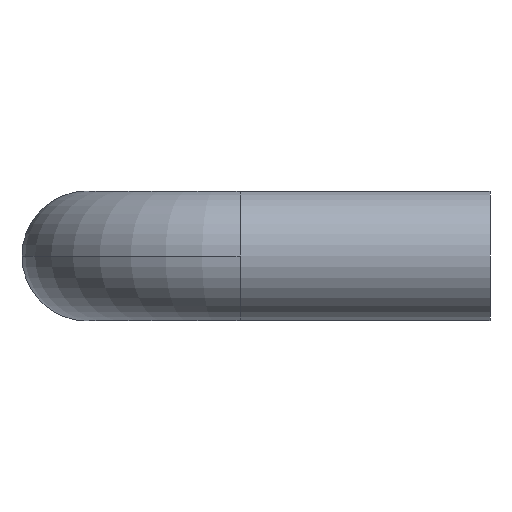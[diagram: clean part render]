
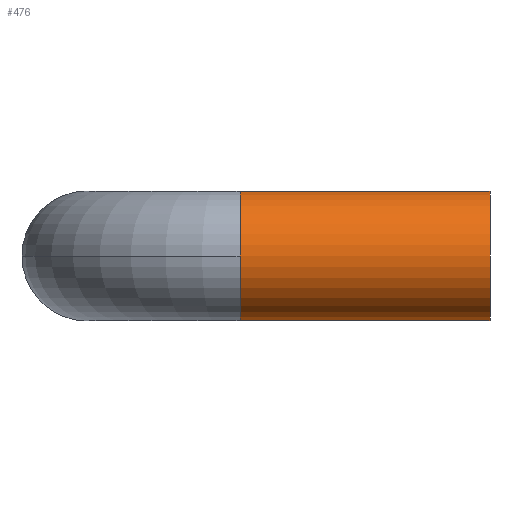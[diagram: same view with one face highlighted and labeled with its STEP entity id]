
A CAD part, front view. The second image highlights one B-rep face of the part: STEP entity #476.
In plain terms, the highlighted cylindrical face has radius 24.15 mm (diameter 48.3 mm), a partial arc.
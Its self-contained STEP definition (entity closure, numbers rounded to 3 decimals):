
#5 = CIRCLE ( 'NONE', #71, 24.15 ) ;
#6 = AXIS2_PLACEMENT_3D ( 'NONE', #216, #486, #369 ) ;
#9 = VERTEX_POINT ( 'NONE', #485 ) ;
#13 = CYLINDRICAL_SURFACE ( 'NONE', #213, 24.15 ) ;
#15 = ORIENTED_EDGE ( 'NONE', *, *, #426, .T. ) ;
#17 = DIRECTION ( 'NONE',  ( 1., 0., 0. ) ) ;
#21 = CARTESIAN_POINT ( 'NONE',  ( 65., 20555., 6300. ) ) ;
#35 = LINE ( 'NONE', #335, #329 ) ;
#65 = VERTEX_POINT ( 'NONE', #21 ) ;
#71 = AXIS2_PLACEMENT_3D ( 'NONE', #156, #345, #378 ) ;
#93 = FACE_OUTER_BOUND ( 'NONE', #166, .T. ) ;
#112 = CIRCLE ( 'NONE', #6, 24.15 ) ;
#121 = CARTESIAN_POINT ( 'NONE',  ( -28., 20555., 6300. ) ) ;
#128 = DIRECTION ( 'NONE',  ( 0., 0., -1. ) ) ;
#131 = DIRECTION ( 'NONE',  ( 1., 0., 0. ) ) ;
#133 = CARTESIAN_POINT ( 'NONE',  ( -28., 20555., 6275.85 ) ) ;
#156 = CARTESIAN_POINT ( 'NONE',  ( 65., 20555., 6275.85 ) ) ;
#166 = EDGE_LOOP ( 'NONE', ( #389, #15, #425, #222, #223 ) ) ;
#171 = EDGE_CURVE ( 'NONE', #65, #366, #5, .T. ) ;
#192 = EDGE_CURVE ( 'NONE', #399, #65, #35, .T. ) ;
#208 = CARTESIAN_POINT ( 'NONE',  ( -28., 20530.85, 6275.85 ) ) ;
#213 = AXIS2_PLACEMENT_3D ( 'NONE', #394, #17, #128 ) ;
#216 = CARTESIAN_POINT ( 'NONE',  ( -28., 20555., 6275.85 ) ) ;
#222 = ORIENTED_EDGE ( 'NONE', *, *, #461, .T. ) ;
#223 = ORIENTED_EDGE ( 'NONE', *, *, #171, .F. ) ;
#237 = AXIS2_PLACEMENT_3D ( 'NONE', #133, #131, #279 ) ;
#266 = CARTESIAN_POINT ( 'NONE',  ( 65., 20555., 6251.7 ) ) ;
#279 = DIRECTION ( 'NONE',  ( 0., 0., -1. ) ) ;
#280 = EDGE_CURVE ( 'NONE', #478, #9, #112, .T. ) ;
#329 = VECTOR ( 'NONE', #492, 1000. ) ;
#335 = CARTESIAN_POINT ( 'NONE',  ( -28., 20555., 6300. ) ) ;
#340 = VECTOR ( 'NONE', #468, 1000. ) ;
#345 = DIRECTION ( 'NONE',  ( 1., 0., 0. ) ) ;
#366 = VERTEX_POINT ( 'NONE', #266 ) ;
#369 = DIRECTION ( 'NONE',  ( 0., 0., -1. ) ) ;
#378 = DIRECTION ( 'NONE',  ( 0., 0., -1. ) ) ;
#382 = CIRCLE ( 'NONE', #237, 24.15 ) ;
#389 = ORIENTED_EDGE ( 'NONE', *, *, #192, .F. ) ;
#394 = CARTESIAN_POINT ( 'NONE',  ( -28., 20555., 6275.85 ) ) ;
#399 = VERTEX_POINT ( 'NONE', #121 ) ;
#425 = ORIENTED_EDGE ( 'NONE', *, *, #280, .T. ) ;
#426 = EDGE_CURVE ( 'NONE', #399, #478, #382, .T. ) ;
#432 = LINE ( 'NONE', #470, #340 ) ;
#461 = EDGE_CURVE ( 'NONE', #9, #366, #432, .T. ) ;
#468 = DIRECTION ( 'NONE',  ( 1., 0., 0. ) ) ;
#470 = CARTESIAN_POINT ( 'NONE',  ( -28., 20555., 6251.7 ) ) ;
#476 = ADVANCED_FACE ( 'NONE', ( #93 ), #13, .T. ) ;
#478 = VERTEX_POINT ( 'NONE', #208 ) ;
#485 = CARTESIAN_POINT ( 'NONE',  ( -28., 20555., 6251.7 ) ) ;
#486 = DIRECTION ( 'NONE',  ( 1., 0., 0. ) ) ;
#492 = DIRECTION ( 'NONE',  ( 1., 0., 0. ) ) ;
